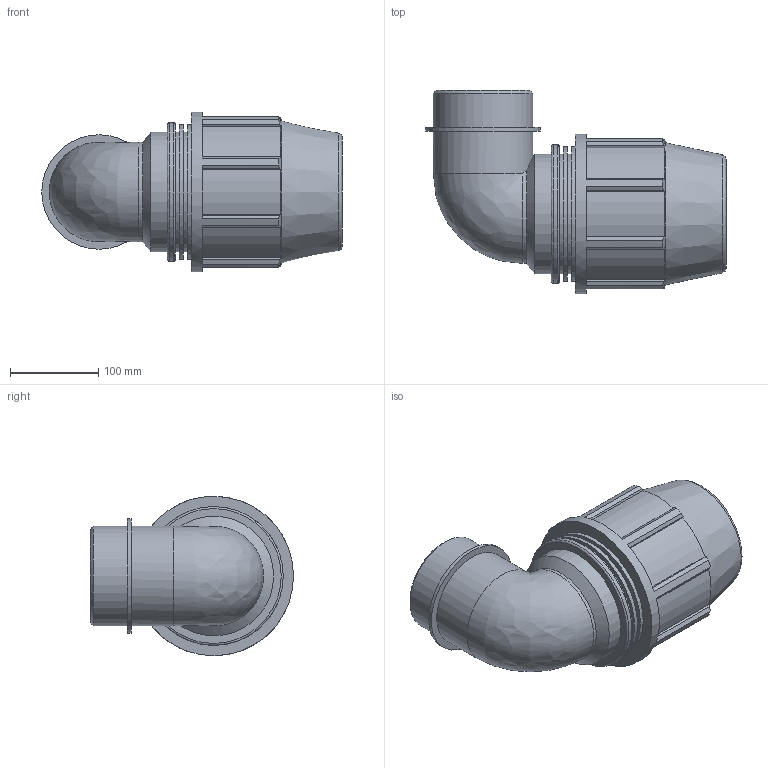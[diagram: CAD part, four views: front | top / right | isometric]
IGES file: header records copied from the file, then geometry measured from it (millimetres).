
Global section: file name: 878500110040_188500110040_848506110040.ipt; native system: Autodesk Inventor 2015; preprocessor: unknown; author: KIM; date: 20180325.201252; units: millimetre
Bounding box: 340.99 x 230.5 x 181 mm (x, y, z)
Volume: 3258349.5 mm3; surface area: 350961.6 mm2
Topology: 1 solids, 1 shells, 85 faces, 225 edges, 150 vertices
Faces by surface type: plane 52, cylinder 19, revolution 9, cone 4, bspline 1
Full cylindrical faces by diameter (mm): 113.03 x2, 129.984 x1, 135.75 x3, 152.746 x2, 157.47 x1, 181 x1
